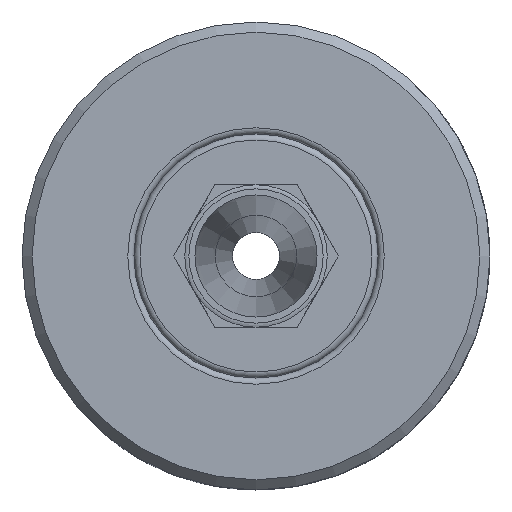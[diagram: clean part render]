
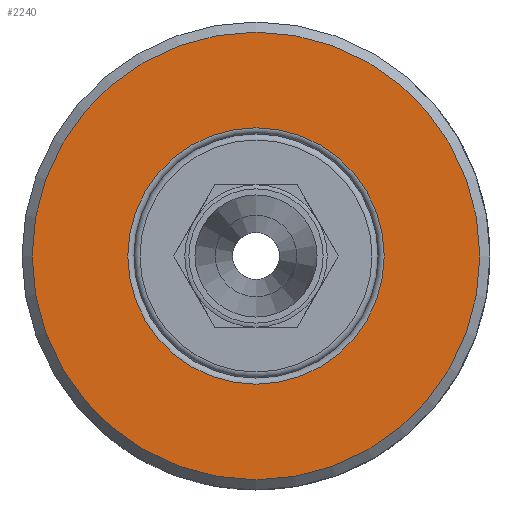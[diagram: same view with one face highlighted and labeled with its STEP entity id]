
A CAD part, left-side view. The second image highlights one B-rep face of the part: STEP entity #2240.
In plain terms, the highlighted planar face has unit normal (-1, 0, 0) as drawn and (1, 0, 0) by its records, which use the part's own axes.
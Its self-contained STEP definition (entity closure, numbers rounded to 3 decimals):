
#2240 = ADVANCED_FACE( '', ( #3180, #3181 ), #3182, .F. );
#3180 = FACE_OUTER_BOUND( '', #4257, .T. );
#3181 = FACE_BOUND( '', #4258, .T. );
#3182 = PLANE( '', #4259 );
#4257 = EDGE_LOOP( '', ( #5076 ) );
#4258 = EDGE_LOOP( '', ( #5077 ) );
#4259 = AXIS2_PLACEMENT_3D( '', #5078, #5079, #5080 );
#5076 = ORIENTED_EDGE( '', *, *, #6046, .F. );
#5077 = ORIENTED_EDGE( '', *, *, #6047, .T. );
#5078 = CARTESIAN_POINT( '', ( 27.5, 0., 11. ) );
#5079 = DIRECTION( '', ( -1., 0., 0. ) );
#5080 = DIRECTION( '', ( 0., 0., 1. ) );
#6046 = EDGE_CURVE( '', #6566, #6566, #6567, .T. );
#6047 = EDGE_CURVE( '', #6568, #6568, #6569, .T. );
#6566 = VERTEX_POINT( '', #7421 );
#6567 = CIRCLE( '', #7422, 11. );
#6568 = VERTEX_POINT( '', #7423 );
#6569 = CIRCLE( '', #7424, 6.3 );
#7421 = CARTESIAN_POINT( '', ( 27.5, 0., 11. ) );
#7422 = AXIS2_PLACEMENT_3D( '', #7648, #7649, #7650 );
#7423 = CARTESIAN_POINT( '', ( 27.5, 0., 6.3 ) );
#7424 = AXIS2_PLACEMENT_3D( '', #7651, #7652, #7653 );
#7648 = CARTESIAN_POINT( '', ( 27.5, 0., 0. ) );
#7649 = DIRECTION( '', ( -1., 0., 0. ) );
#7650 = DIRECTION( '', ( 0., 0., 1. ) );
#7651 = CARTESIAN_POINT( '', ( 27.5, 0., 0. ) );
#7652 = DIRECTION( '', ( -1., 0., 0. ) );
#7653 = DIRECTION( '', ( 0., 0., 1. ) );
